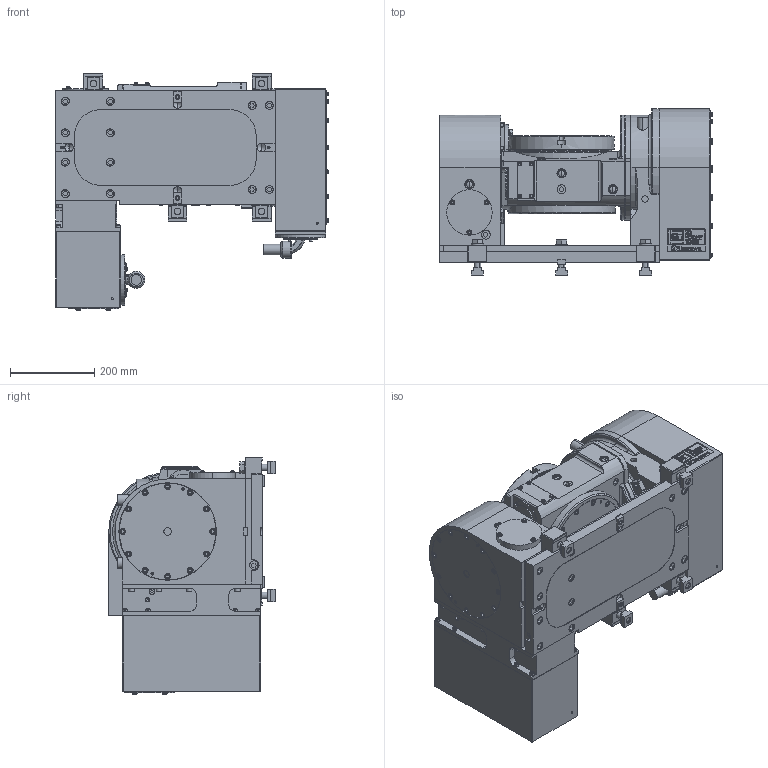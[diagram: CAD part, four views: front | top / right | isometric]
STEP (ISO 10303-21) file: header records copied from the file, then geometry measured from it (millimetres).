
FILE_DESCRIPTION (( 'STEP AP214' ), '1' );
FILE_NAME ('【掲載用】TT251Quinte.STEP', '2019-10-16T01:42:35', ( '' ), ( '' ), 'SwSTEP 2.0', 'SolidWorks 2017', '' );
FILE_SCHEMA (( 'AUTOMOTIVE_DESIGN' ));
Length unit declared in the file: millimetre
Products named in the file (20): 僇僶乕丂俹(61E4458212)MR160LAF01; キタガワシール; KQ2E06-01; モータケース(61E2792040)TT251HV01; パッキングプレートPAD(61E4417971)TT251H00_回転モデル; ササエPAD(61E3557535)TT251H00_回転モデル; ケイシャモータクドウASSY(61E3590926)TT251H00_回転モデル; ケイシャホンタイASSY(61E2642532)TT251H01_回転モデル; CLAMPING PARTS(61E4302260)TM250D; T僗儘僢僩僫僢僩俿俶俵侾俉侾俇; 【掲載用】TT251Quinte; B パーカ　M16×70; ワッシャ　１６; クランプ（61E404734）; TABLE(61E8452140)TT251H01; BODY(61E1143053)TT251H01; BASE_TT251HV; 働乕僽儖N29ZSZ2562; コネクタプレート(61E4463873)TMX160B20; モータケース(61E2653920)TTM251B50
Assembly tree (25 placements, depth 3):
  【掲載用】TT251Quinte
    BASE_TT251HV
      ケイシャホンタイASSY(61E2642532)TT251H01_回転モデル
      ケイシャモータクドウASSY(61E3590926)TT251H00_回転モデル
      ササエPAD(61E3557535)TT251H00_回転モデル
      パッキングプレートPAD(61E4417971)TT251H00_回転モデル
      モータケース(61E2792040)TT251HV01
      KQ2E06-01  x2
      キタガワシール
      僇僶乕丂俹(61E4458212)MR160LAF01
      モータケース(61E2653920)TTM251B50
      コネクタプレート(61E4463873)TMX160B20  x2
      働乕僽儖N29ZSZ2562  x2
    BODY(61E1143053)TT251H01
    TABLE(61E8452140)TT251H01
    CLAMPING PARTS(61E4302260)TM250D  x4
      クランプ（61E404734）
      ワッシャ　１６
      B パーカ　M16×70
      T僗儘僢僩僫僢僩俿俶俵侾俉侾俇
Bounding box: 648.8 x 396 x 563.7 mm (x, y, z)
Volume: 60802325 mm3; surface area: 2769469.2 mm2
Topology: 32 solids, 40 shells, 4560 faces, 11368 edges, 7372 vertices
Faces by surface type: plane 2996, cylinder 1078, cone 277, torus 163, bspline 27, sphere 19
Entity records: 147630 total; most frequent: CARTESIAN_POINT 24849, DIRECTION 21302, ORIENTED_EDGE 21128, EDGE_CURVE 10564, VECTOR 7892, LINE 7892, VERTEX_POINT 6888, AXIS2_PLACEMENT_3D 6705
